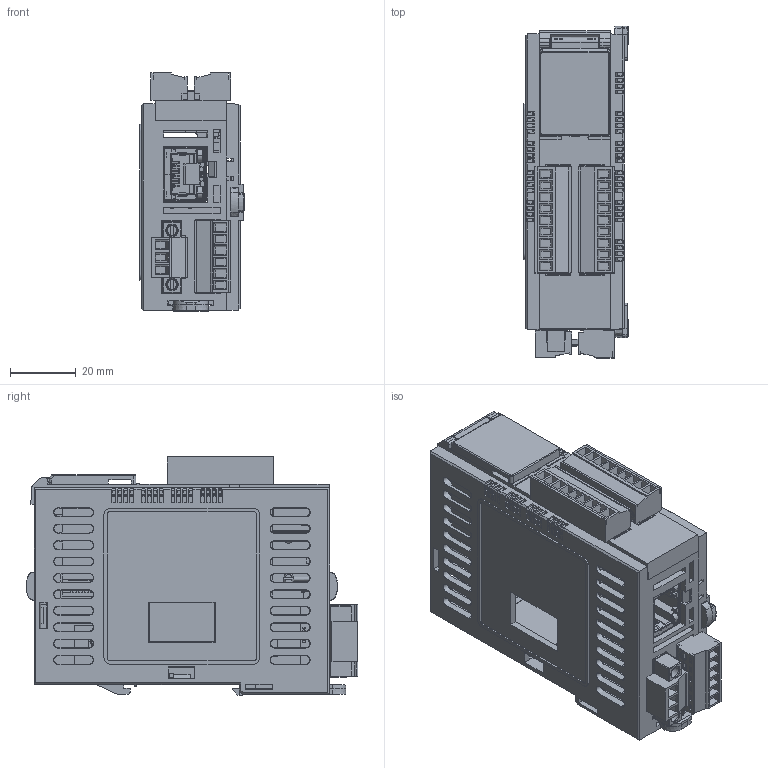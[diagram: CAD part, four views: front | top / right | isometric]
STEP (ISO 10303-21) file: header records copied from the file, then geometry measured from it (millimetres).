
FILE_DESCRIPTION (( 'STEP AP214' ), '1' );
FILE_NAME ('CM3-SP16MDRF(MDRV)_目池磐 器窃.STEP', '2025-10-20T04:41:40', ( '' ), ( '' ), 'SwSTEP 2.0', 'SolidWorks 2024', '' );
FILE_SCHEMA (( 'AUTOMOTIVE_DESIGN' ));
Length unit declared in the file: millimetre
Products named in the file (1): CM3-SP16MDRF(MDRV)_커넥터 포함
Bounding box: 31.7 x 101.12 x 72.6 mm (x, y, z)
Volume: 52372.4 mm3; surface area: 72868.5 mm2
Topology: 1 solids, 32 shells, 8505 faces, 24220 edges, 15747 vertices
Faces by surface type: plane 6928, cylinder 1246, bspline 196, torus 64, cone 59, sphere 12
Full cylindrical faces by diameter (mm): 1.9 x18, 2 x8, 2.3 x18, 2.7 x18, 2.87 x4, 2.95 x10, 3.85 x4
Entity records: 283358 total; most frequent: CARTESIAN_POINT 63990, ORIENTED_EDGE 48042, DIRECTION 41013, EDGE_CURVE 24021, VECTOR 19525, LINE 19525, VERTEX_POINT 15662, AXIS2_PLACEMENT_3D 10744
